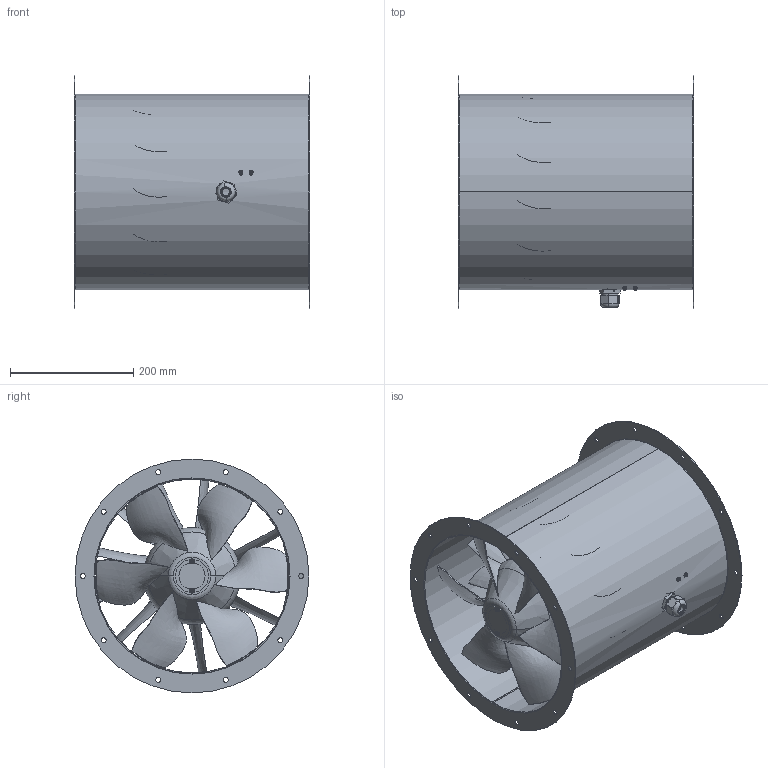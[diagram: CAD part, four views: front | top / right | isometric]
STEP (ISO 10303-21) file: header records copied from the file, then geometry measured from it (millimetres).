
FILE_DESCRIPTION (( 'STEP AP203' ), '1' );
FILE_NAME ('154136-00_AL315EC01_step.step', '2020-05-29T10:52:51', ( '' ), ( '' ), 'SwSTEP 2.0', 'SolidWorks 2017', '' );
FILE_SCHEMA (( 'CONFIG_CONTROL_DESIGN' ));
Length unit declared in the file: millimetre
Products named in the file (1): 154136-00_AL315EC01_step
Bounding box: 383 x 380 x 380 mm (x, y, z)
Surface area: 1199601.1 mm2 (no closed solid volume)
Topology: 0 solids, 88 shells, 639 faces, 3412 edges, 2770 vertices
Faces by surface type: cylinder 197, plane 181, bspline 125, torus 93, cone 43
Entity records: 257149 total; most frequent: CARTESIAN_POINT 233497, ORIENTED_EDGE 4434, DIRECTION 4003, EDGE_CURVE 3402, VERTEX_POINT 2770, VECTOR 1403, LINE 1403, AXIS2_PLACEMENT_3D 1300
